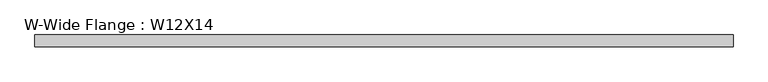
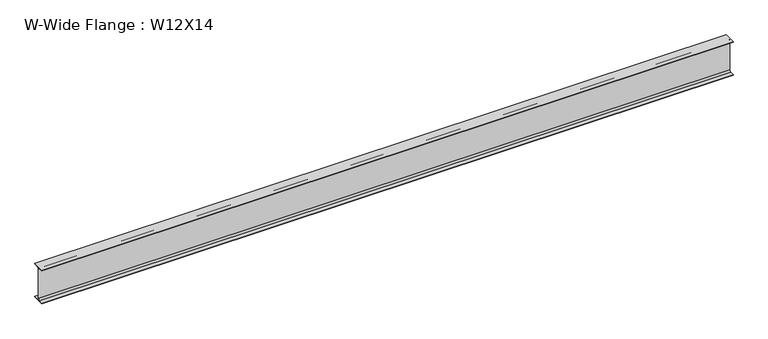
"""IFC4 building model written with IfcOpenShell, lengths in millimetres: beam geometry, W-Wide Flange : W12X14."""

from ifc_helpers import new_model, si_unit, point, frame, frame_2d, origin, place, context, project, spatial, polyline, circle_curve, trimmed, segment, composite_curve, outline, extrude, source, transform, mapped, element, save


def w_wide_flange_w12x14_0b03b979(model_context):
    return source(origin(), model_context, "Body", "SweptSolid", [
        extrude(outline(composite_curve([segment(polyline([(50.419, -145.415), (50.419, -151.13), (-50.419, -151.13), (-50.419, -145.415), (-15.875, -145.415)]), True, "CONTINUOUS"), segment(trimmed(circle_curve(frame_2d((-15.875, -132.08)), 13.335), [point((-15.875, -145.415))], [point((-2.54, -132.08))], True, "CARTESIAN"), True, "CONTINUOUS"), segment(polyline([(-2.54, -132.08), (-2.54, 132.08)]), True, "CONTINUOUS"), segment(trimmed(circle_curve(frame_2d((-15.875, 132.08)), 13.335), [point((-2.54, 132.08))], [point((-15.875, 145.415))], True, "CARTESIAN"), True, "CONTINUOUS"), segment(polyline([(-15.875, 145.415), (-50.419, 145.415), (-50.419, 151.13), (50.419, 151.13), (50.419, 145.415), (15.875, 145.415)]), True, "CONTINUOUS"), segment(trimmed(circle_curve(frame_2d((15.875, 132.08)), 13.335), [point((15.875, 145.415))], [point((2.54, 132.08))], True, "CARTESIAN"), True, "CONTINUOUS"), segment(polyline([(2.54, 132.08), (2.54, -132.08)]), True, "CONTINUOUS"), segment(trimmed(circle_curve(frame_2d((15.875, -132.08)), 13.335), [point((2.54, -132.08))], [point((15.875, -145.415))], True, "CARTESIAN"), True, "CONTINUOUS"), segment(polyline([(15.875, -145.415), (50.419, -145.415)]), True, "CONTINUOUS")], self_intersect=False)), frame((-2921.381, 0.0, 0.0), z_axis=(1.0, 0.0, 0.0), x_axis=(0.0, 1.0, 0.0)), (0.0, 0.0, 1.0), 5886.831),
    ])


if __name__ == "__main__":
    model = new_model("IFC4")
    model_context = context("Model", 3, world=origin())
    ifc_project = project(units=[si_unit("LENGTHUNIT", "METRE", prefix="MILLI")], contexts=[model_context])
    site = spatial("IfcSite", under=ifc_project)
    building = spatial("IfcBuilding", under=site)
    placement = place(None, origin())
    w_wide_flange_w12x14_shape = w_wide_flange_w12x14_0b03b979(model_context)
    element("IfcBeam", 1, ObjectType="W-Wide Flange : W12X14", at=placement, inside=building, context=model_context, shape_type="MappedRepresentation", body=[
        mapped(w_wide_flange_w12x14_shape, transform((0.0, 0.0, 0.0), x_axis=(1.0, 0.0, 0.0), y_axis=(0.0, 1.0, 0.0), z_axis=(0.0, 0.0, 1.0))),
    ])
    save(model, "model.ifc")
